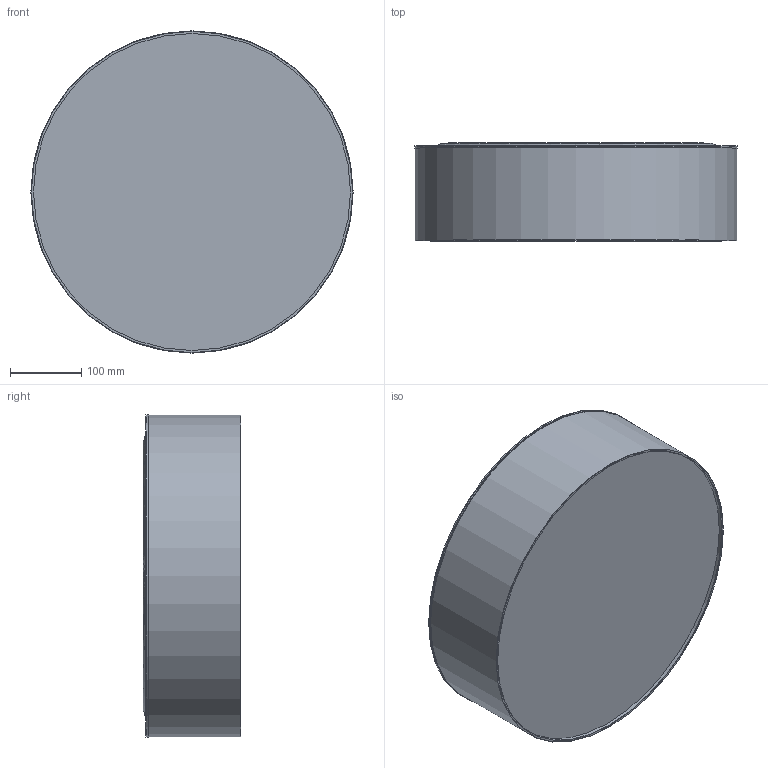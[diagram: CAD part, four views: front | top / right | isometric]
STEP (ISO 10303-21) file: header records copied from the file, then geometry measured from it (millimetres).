
FILE_DESCRIPTION(/* description */ (''),/* implementation_level */ '2;1');
FILE_NAME(/* name */ 'C:/Users/kubaw/OneDrive/Pulpit/TK_lighting - modele 2/OK/1086_RONDO v5/1086_RONDO v5.step',/* time_stamp */ '2021-04-02T06:39:47+02:00',/* author */ (''),/* organization */ (''),/* preprocessor_version */ 'ST-DEVELOPER v18.1',/* originating_system */ 'Autodesk Translation Framework v9.10.0.1330',/* authorisation */ '');
FILE_SCHEMA (('AUTOMOTIVE_DESIGN { 1 0 10303 214 3 1 1 }'));
Length unit declared in the file: millimetre
Products named in the file (3): 1086_RONDO; POKRYWA_1086; MOCOWANIE RONDO_PLAFON
Assembly tree (2 placements, depth 2):
  1086_RONDO
    POKRYWA_1086
    MOCOWANIE RONDO_PLAFON
Bounding box: 451.4 x 137 x 451.4 mm (x, y, z)
Volume: 653035.7 mm3; surface area: 1135937.5 mm2
Topology: 33 solids, 33 shells, 364 faces, 835 edges, 540 vertices
Faces by surface type: plane 270, cylinder 54, bspline 32, torus 8
Full cylindrical faces by diameter (mm): 14.8 x3, 14.819 x8, 18 x1, 20 x1, 20.058 x4, 28.544 x4, 30 x4, 40 x4, 45 x4, 96 x1, 100 x1, 444 x1, 446 x1, 448 x1, 449.92 x1, 450 x1, 451.4 x1
Entity records: 11584 total; most frequent: CARTESIAN_POINT 3135, DIRECTION 1707, ORIENTED_EDGE 1670, EDGE_CURVE 835, LINE 639, VECTOR 639, VERTEX_POINT 540, AXIS2_PLACEMENT_3D 534
